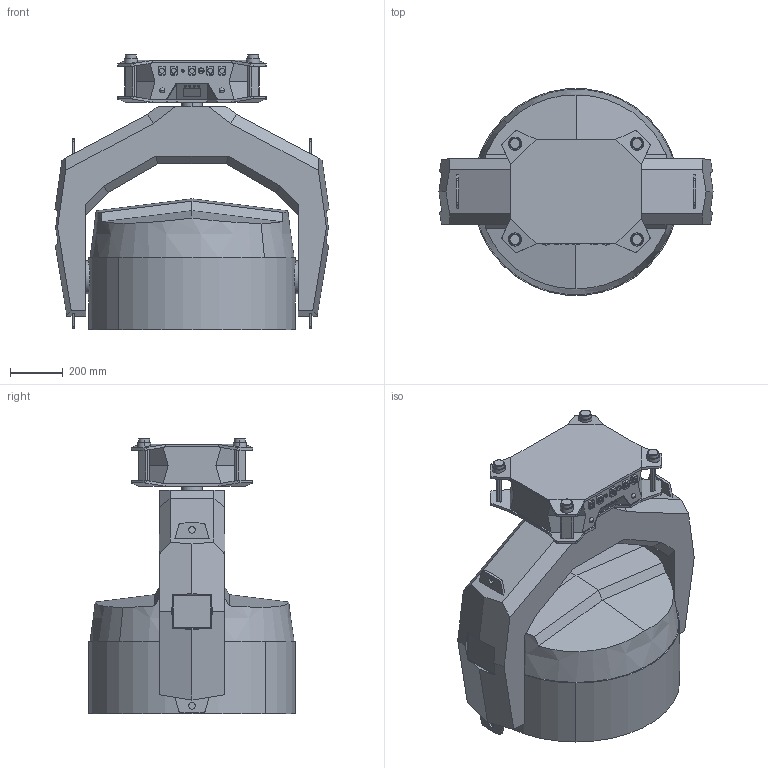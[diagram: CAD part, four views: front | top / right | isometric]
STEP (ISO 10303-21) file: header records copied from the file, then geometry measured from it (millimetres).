
FILE_DESCRIPTION((''),'2;1');
FILE_NAME('GLP-21922_ASM','2024-12-17T15:21:30',('LeovomKolke'),(''),'CREO PARAMETRIC BY PTC INC, 2024133','CREO PARAMETRIC BY PTC INC, 2024133','');
FILE_SCHEMA(('AUTOMOTIVE_DESIGN { 1 0 10303 214 1 1 1 1 }'));
Length unit declared in the file: millimetre
Products named in the file (4): GLP-16883; GLP-16884; GLP-16885; GLP-21922_ASM
Assembly tree (3 placements, depth 2):
  GLP-21922_ASM
    GLP-16883
    GLP-16884
    GLP-16885
Bounding box: 1044.21 x 786 x 1048.3 mm (x, y, z)
Volume: 311154502.3 mm3; surface area: 4478683.5 mm2
Topology: 3 solids, 3 shells, 522 faces, 1318 edges, 833 vertices
Faces by surface type: plane 317, cylinder 151, torus 30, cone 12, bspline 8, sphere 4
Entity records: 18250 total; most frequent: CARTESIAN_POINT 3988, DIRECTION 2682, ORIENTED_EDGE 2604, EDGE_CURVE 1302, VECTOR 942, LINE 942, AXIS2_PLACEMENT_3D 864, VERTEX_POINT 821
